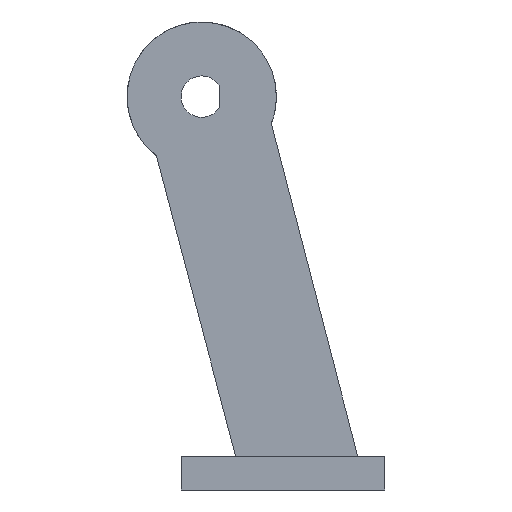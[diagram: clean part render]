
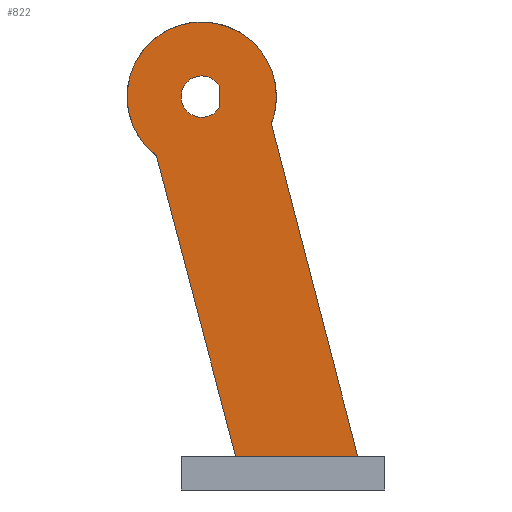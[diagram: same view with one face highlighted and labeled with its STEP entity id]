
A CAD part, front view. The second image highlights one B-rep face of the part: STEP entity #822.
In plain terms, the highlighted planar face has unit normal (0, -1, 0).
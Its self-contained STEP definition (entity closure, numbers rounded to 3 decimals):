
#22 = VERTEX_POINT('',#23);
#23 = CARTESIAN_POINT('',(11.,-31.5,0.));
#32 = CYLINDRICAL_SURFACE('',#33,11.);
#33 = AXIS2_PLACEMENT_3D('',#34,#35,#36);
#34 = CARTESIAN_POINT('',(0.,-31.5,0.));
#35 = DIRECTION('',(0.,-1.,-0.));
#36 = DIRECTION('',(1.,0.,0.));
#51 = EDGE_CURVE('',#52,#22,#54,.T.);
#52 = VERTEX_POINT('',#53);
#53 = CARTESIAN_POINT('',(-6.694,-31.5,-8.728));
#54 = SURFACE_CURVE('',#55,(#60,#67),.PCURVE_S1.);
#55 = CIRCLE('',#56,11.);
#56 = AXIS2_PLACEMENT_3D('',#57,#58,#59);
#57 = CARTESIAN_POINT('',(0.,-31.5,0.));
#58 = DIRECTION('',(-0.,1.,0.));
#59 = DIRECTION('',(1.,0.,0.));
#60 = PCURVE('',#32,#61);
#61 = DEFINITIONAL_REPRESENTATION('',(#62),#66);
#62 = LINE('',#63,#64);
#63 = CARTESIAN_POINT('',(-0.,0.));
#64 = VECTOR('',#65,1.);
#65 = DIRECTION('',(-1.,0.));
#66 = ( GEOMETRIC_REPRESENTATION_CONTEXT(2) 
PARAMETRIC_REPRESENTATION_CONTEXT() REPRESENTATION_CONTEXT('2D SPACE',''
  ) );
#67 = PCURVE('',#68,#73);
#68 = PLANE('',#69);
#69 = AXIS2_PLACEMENT_3D('',#70,#71,#72);
#70 = CARTESIAN_POINT('',(0.,-31.5,0.));
#71 = DIRECTION('',(0.,1.,0.));
#72 = DIRECTION('',(0.,-0.,1.));
#73 = DEFINITIONAL_REPRESENTATION('',(#74),#78);
#74 = CIRCLE('',#75,11.);
#75 = AXIS2_PLACEMENT_2D('',#76,#77);
#76 = CARTESIAN_POINT('',(0.,0.));
#77 = DIRECTION('',(0.,1.));
#78 = ( GEOMETRIC_REPRESENTATION_CONTEXT(2) 
PARAMETRIC_REPRESENTATION_CONTEXT() REPRESENTATION_CONTEXT('2D SPACE',''
  ) );
#96 = PLANE('',#97);
#97 = AXIS2_PLACEMENT_3D('',#98,#99,#100);
#98 = CARTESIAN_POINT('',(5.,-31.5,-53.));
#99 = DIRECTION('',(0.967,0.,0.255));
#100 = DIRECTION('',(-0.255,0.,0.967));
#142 = VERTEX_POINT('',#143);
#143 = CARTESIAN_POINT('',(10.255,-31.5,-3.98));
#157 = PLANE('',#158);
#158 = AXIS2_PLACEMENT_3D('',#159,#160,#161);
#159 = CARTESIAN_POINT('',(10.,-31.5,-3.));
#160 = DIRECTION('',(-0.968,-0.,-0.252));
#161 = DIRECTION('',(0.252,0.,-0.968));
#169 = EDGE_CURVE('',#22,#142,#170,.T.);
#170 = SURFACE_CURVE('',#171,(#176,#183),.PCURVE_S1.);
#171 = CIRCLE('',#172,11.);
#172 = AXIS2_PLACEMENT_3D('',#173,#174,#175);
#173 = CARTESIAN_POINT('',(0.,-31.5,0.));
#174 = DIRECTION('',(-0.,1.,0.));
#175 = DIRECTION('',(1.,0.,0.));
#176 = PCURVE('',#32,#177);
#177 = DEFINITIONAL_REPRESENTATION('',(#178),#182);
#178 = LINE('',#179,#180);
#179 = CARTESIAN_POINT('',(-0.,0.));
#180 = VECTOR('',#181,1.);
#181 = DIRECTION('',(-1.,0.));
#182 = ( GEOMETRIC_REPRESENTATION_CONTEXT(2) 
PARAMETRIC_REPRESENTATION_CONTEXT() REPRESENTATION_CONTEXT('2D SPACE',''
  ) );
#183 = PCURVE('',#68,#184);
#184 = DEFINITIONAL_REPRESENTATION('',(#185),#189);
#185 = CIRCLE('',#186,11.);
#186 = AXIS2_PLACEMENT_2D('',#187,#188);
#187 = CARTESIAN_POINT('',(0.,0.));
#188 = DIRECTION('',(0.,1.));
#189 = ( GEOMETRIC_REPRESENTATION_CONTEXT(2) 
PARAMETRIC_REPRESENTATION_CONTEXT() REPRESENTATION_CONTEXT('2D SPACE',''
  ) );
#474 = PLANE('',#475);
#475 = AXIS2_PLACEMENT_3D('',#476,#477,#478);
#476 = CARTESIAN_POINT('',(2.55,-33.5,-4.));
#477 = DIRECTION('',(1.,0.,-0.));
#478 = DIRECTION('',(0.,0.,1.));
#516 = CYLINDRICAL_SURFACE('',#517,3.05);
#517 = AXIS2_PLACEMENT_3D('',#518,#519,#520);
#518 = CARTESIAN_POINT('',(0.,-33.5,0.));
#519 = DIRECTION('',(0.,-1.,0.));
#520 = DIRECTION('',(1.,0.,0.));
#822 = ADVANCED_FACE('',(#823,#899),#68,.F.);
#823 = FACE_BOUND('',#824,.F.);
#824 = EDGE_LOOP('',(#825,#826,#827,#850,#878));
#825 = ORIENTED_EDGE('',*,*,#51,.T.);
#826 = ORIENTED_EDGE('',*,*,#169,.T.);
#827 = ORIENTED_EDGE('',*,*,#828,.T.);
#828 = EDGE_CURVE('',#142,#829,#831,.T.);
#829 = VERTEX_POINT('',#830);
#830 = CARTESIAN_POINT('',(23.,-31.5,-53.));
#831 = SURFACE_CURVE('',#832,(#836,#843),.PCURVE_S1.);
#832 = LINE('',#833,#834);
#833 = CARTESIAN_POINT('',(10.,-31.5,-3.));
#834 = VECTOR('',#835,1.);
#835 = DIRECTION('',(0.252,0.,-0.968));
#836 = PCURVE('',#68,#837);
#837 = DEFINITIONAL_REPRESENTATION('',(#838),#842);
#838 = LINE('',#839,#840);
#839 = CARTESIAN_POINT('',(-3.,10.));
#840 = VECTOR('',#841,1.);
#841 = DIRECTION('',(-0.968,0.252));
#842 = ( GEOMETRIC_REPRESENTATION_CONTEXT(2) 
PARAMETRIC_REPRESENTATION_CONTEXT() REPRESENTATION_CONTEXT('2D SPACE',''
  ) );
#843 = PCURVE('',#157,#844);
#844 = DEFINITIONAL_REPRESENTATION('',(#845),#849);
#845 = LINE('',#846,#847);
#846 = CARTESIAN_POINT('',(0.,0.));
#847 = VECTOR('',#848,1.);
#848 = DIRECTION('',(1.,0.));
#849 = ( GEOMETRIC_REPRESENTATION_CONTEXT(2) 
PARAMETRIC_REPRESENTATION_CONTEXT() REPRESENTATION_CONTEXT('2D SPACE',''
  ) );
#850 = ORIENTED_EDGE('',*,*,#851,.T.);
#851 = EDGE_CURVE('',#829,#852,#854,.T.);
#852 = VERTEX_POINT('',#853);
#853 = CARTESIAN_POINT('',(5.,-31.5,-53.));
#854 = SURFACE_CURVE('',#855,(#859,#866),.PCURVE_S1.);
#855 = LINE('',#856,#857);
#856 = CARTESIAN_POINT('',(23.,-31.5,-53.));
#857 = VECTOR('',#858,1.);
#858 = DIRECTION('',(-1.,0.,0.));
#859 = PCURVE('',#68,#860);
#860 = DEFINITIONAL_REPRESENTATION('',(#861),#865);
#861 = LINE('',#862,#863);
#862 = CARTESIAN_POINT('',(-53.,23.));
#863 = VECTOR('',#864,1.);
#864 = DIRECTION('',(0.,-1.));
#865 = ( GEOMETRIC_REPRESENTATION_CONTEXT(2) 
PARAMETRIC_REPRESENTATION_CONTEXT() REPRESENTATION_CONTEXT('2D SPACE',''
  ) );
#866 = PCURVE('',#867,#872);
#867 = PLANE('',#868);
#868 = AXIS2_PLACEMENT_3D('',#869,#870,#871);
#869 = CARTESIAN_POINT('',(23.,-31.5,-53.));
#870 = DIRECTION('',(0.,0.,1.));
#871 = DIRECTION('',(-1.,0.,0.));
#872 = DEFINITIONAL_REPRESENTATION('',(#873),#877);
#873 = LINE('',#874,#875);
#874 = CARTESIAN_POINT('',(0.,0.));
#875 = VECTOR('',#876,1.);
#876 = DIRECTION('',(1.,0.));
#877 = ( GEOMETRIC_REPRESENTATION_CONTEXT(2) 
PARAMETRIC_REPRESENTATION_CONTEXT() REPRESENTATION_CONTEXT('2D SPACE',''
  ) );
#878 = ORIENTED_EDGE('',*,*,#879,.T.);
#879 = EDGE_CURVE('',#852,#52,#880,.T.);
#880 = SURFACE_CURVE('',#881,(#885,#892),.PCURVE_S1.);
#881 = LINE('',#882,#883);
#882 = CARTESIAN_POINT('',(5.,-31.5,-53.));
#883 = VECTOR('',#884,1.);
#884 = DIRECTION('',(-0.255,0.,0.967));
#885 = PCURVE('',#68,#886);
#886 = DEFINITIONAL_REPRESENTATION('',(#887),#891);
#887 = LINE('',#888,#889);
#888 = CARTESIAN_POINT('',(-53.,5.));
#889 = VECTOR('',#890,1.);
#890 = DIRECTION('',(0.967,-0.255));
#891 = ( GEOMETRIC_REPRESENTATION_CONTEXT(2) 
PARAMETRIC_REPRESENTATION_CONTEXT() REPRESENTATION_CONTEXT('2D SPACE',''
  ) );
#892 = PCURVE('',#96,#893);
#893 = DEFINITIONAL_REPRESENTATION('',(#894),#898);
#894 = LINE('',#895,#896);
#895 = CARTESIAN_POINT('',(0.,0.));
#896 = VECTOR('',#897,1.);
#897 = DIRECTION('',(1.,0.));
#898 = ( GEOMETRIC_REPRESENTATION_CONTEXT(2) 
PARAMETRIC_REPRESENTATION_CONTEXT() REPRESENTATION_CONTEXT('2D SPACE',''
  ) );
#899 = FACE_BOUND('',#900,.F.);
#900 = EDGE_LOOP('',(#901,#926));
#901 = ORIENTED_EDGE('',*,*,#902,.F.);
#902 = EDGE_CURVE('',#903,#905,#907,.T.);
#903 = VERTEX_POINT('',#904);
#904 = CARTESIAN_POINT('',(2.55,-31.5,1.673));
#905 = VERTEX_POINT('',#906);
#906 = CARTESIAN_POINT('',(2.55,-31.5,-1.673));
#907 = SURFACE_CURVE('',#908,(#912,#919),.PCURVE_S1.);
#908 = LINE('',#909,#910);
#909 = CARTESIAN_POINT('',(2.55,-31.5,-2.));
#910 = VECTOR('',#911,1.);
#911 = DIRECTION('',(-0.,0.,-1.));
#912 = PCURVE('',#68,#913);
#913 = DEFINITIONAL_REPRESENTATION('',(#914),#918);
#914 = LINE('',#915,#916);
#915 = CARTESIAN_POINT('',(-2.,2.55));
#916 = VECTOR('',#917,1.);
#917 = DIRECTION('',(-1.,0.));
#918 = ( GEOMETRIC_REPRESENTATION_CONTEXT(2) 
PARAMETRIC_REPRESENTATION_CONTEXT() REPRESENTATION_CONTEXT('2D SPACE',''
  ) );
#919 = PCURVE('',#474,#920);
#920 = DEFINITIONAL_REPRESENTATION('',(#921),#925);
#921 = LINE('',#922,#923);
#922 = CARTESIAN_POINT('',(2.,-2.));
#923 = VECTOR('',#924,1.);
#924 = DIRECTION('',(-1.,-0.));
#925 = ( GEOMETRIC_REPRESENTATION_CONTEXT(2) 
PARAMETRIC_REPRESENTATION_CONTEXT() REPRESENTATION_CONTEXT('2D SPACE',''
  ) );
#926 = ORIENTED_EDGE('',*,*,#927,.T.);
#927 = EDGE_CURVE('',#903,#905,#928,.T.);
#928 = SURFACE_CURVE('',#929,(#934,#945),.PCURVE_S1.);
#929 = CIRCLE('',#930,3.05);
#930 = AXIS2_PLACEMENT_3D('',#931,#932,#933);
#931 = CARTESIAN_POINT('',(0.,-31.5,0.));
#932 = DIRECTION('',(0.,-1.,0.));
#933 = DIRECTION('',(1.,0.,0.));
#934 = PCURVE('',#68,#935);
#935 = DEFINITIONAL_REPRESENTATION('',(#936),#944);
#936 = ( BOUNDED_CURVE() B_SPLINE_CURVE(2,(#937,#938,#939,#940,#941,#942
,#943),.UNSPECIFIED.,.T.,.F.) B_SPLINE_CURVE_WITH_KNOTS((1,2,2,2,2,1),(
    -2.094,0.,2.094,4.189,6.283,
8.378),.UNSPECIFIED.) CURVE() GEOMETRIC_REPRESENTATION_ITEM() 
RATIONAL_B_SPLINE_CURVE((1.,0.5,1.,0.5,1.,0.5,1.)) REPRESENTATION_ITEM(
  '') );
#937 = CARTESIAN_POINT('',(0.,3.05));
#938 = CARTESIAN_POINT('',(5.283,3.05));
#939 = CARTESIAN_POINT('',(2.641,-1.525));
#940 = CARTESIAN_POINT('',(0.,-6.1));
#941 = CARTESIAN_POINT('',(-2.641,-1.525));
#942 = CARTESIAN_POINT('',(-5.283,3.05));
#943 = CARTESIAN_POINT('',(0.,3.05));
#944 = ( GEOMETRIC_REPRESENTATION_CONTEXT(2) 
PARAMETRIC_REPRESENTATION_CONTEXT() REPRESENTATION_CONTEXT('2D SPACE',''
  ) );
#945 = PCURVE('',#516,#946);
#946 = DEFINITIONAL_REPRESENTATION('',(#947),#951);
#947 = LINE('',#948,#949);
#948 = CARTESIAN_POINT('',(0.,-2.));
#949 = VECTOR('',#950,1.);
#950 = DIRECTION('',(1.,0.));
#951 = ( GEOMETRIC_REPRESENTATION_CONTEXT(2) 
PARAMETRIC_REPRESENTATION_CONTEXT() REPRESENTATION_CONTEXT('2D SPACE',''
  ) );
